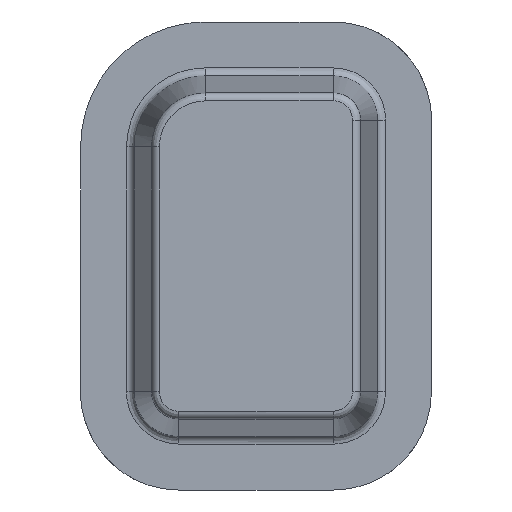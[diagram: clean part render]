
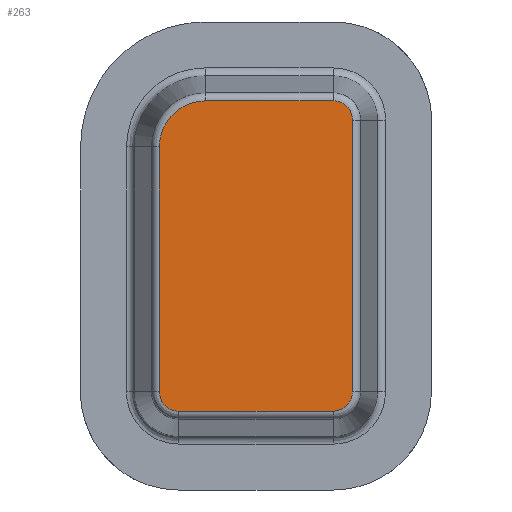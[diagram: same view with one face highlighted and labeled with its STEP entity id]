
A CAD part, front view. The second image highlights one B-rep face of the part: STEP entity #263.
In plain terms, the highlighted planar face has unit normal (0, -1, 0).
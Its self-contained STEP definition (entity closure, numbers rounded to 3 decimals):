
#144=CARTESIAN_POINT('Axis2P3D Location',(40.08,0.,59.92)) ;
#149=CARTESIAN_POINT('Line Origine',(2.749,0.,56.)) ;
#153=CARTESIAN_POINT('Vertex',(2.749,0.,102.)) ;
#155=CARTESIAN_POINT('Vertex',(2.749,0.,10.)) ;
#159=CARTESIAN_POINT('Control Point',(2.749,0.,10.)) ;
#160=CARTESIAN_POINT('Control Point',(2.749,0.,9.039)) ;
#161=CARTESIAN_POINT('Control Point',(2.908,0.,8.077)) ;
#162=CARTESIAN_POINT('Control Point',(3.227,0.,7.153)) ;
#163=CARTESIAN_POINT('Control Point',(4.157,0.,5.444)) ;
#164=CARTESIAN_POINT('Control Point',(5.587,0.,4.125)) ;
#165=CARTESIAN_POINT('Control Point',(6.407,0.,3.591)) ;
#166=CARTESIAN_POINT('Control Point',(7.615,0.,3.065)) ;
#167=CARTESIAN_POINT('Control Point',(8.897,0.,2.821)) ;
#168=CARTESIAN_POINT('Control Point',(9.235,0.,2.777)) ;
#169=CARTESIAN_POINT('Control Point',(9.593,0.,2.752)) ;
#170=CARTESIAN_POINT('Control Point',(9.95,0.,2.749)) ;
#171=CARTESIAN_POINT('Control Point',(9.967,0.,2.749)) ;
#172=CARTESIAN_POINT('Control Point',(9.983,0.,2.749)) ;
#173=CARTESIAN_POINT('Control Point',(10.,0.,2.749)) ;
#174=CARTESIAN_POINT('Vertex',(10.,0.,2.749)) ;
#177=CARTESIAN_POINT('Line Origine',(39.,0.,2.749)) ;
#181=CARTESIAN_POINT('Vertex',(68.,0.,2.749)) ;
#185=CARTESIAN_POINT('Control Point',(68.,0.,2.749)) ;
#186=CARTESIAN_POINT('Control Point',(68.961,0.,2.749)) ;
#187=CARTESIAN_POINT('Control Point',(69.923,0.,2.908)) ;
#188=CARTESIAN_POINT('Control Point',(70.847,0.,3.227)) ;
#189=CARTESIAN_POINT('Control Point',(72.556,0.,4.157)) ;
#190=CARTESIAN_POINT('Control Point',(73.875,0.,5.587)) ;
#191=CARTESIAN_POINT('Control Point',(74.409,0.,6.407)) ;
#192=CARTESIAN_POINT('Control Point',(74.935,0.,7.615)) ;
#193=CARTESIAN_POINT('Control Point',(75.179,0.,8.897)) ;
#194=CARTESIAN_POINT('Control Point',(75.223,0.,9.235)) ;
#195=CARTESIAN_POINT('Control Point',(75.248,0.,9.593)) ;
#196=CARTESIAN_POINT('Control Point',(75.251,0.,9.95)) ;
#197=CARTESIAN_POINT('Control Point',(75.251,0.,9.967)) ;
#198=CARTESIAN_POINT('Control Point',(75.251,0.,9.983)) ;
#199=CARTESIAN_POINT('Control Point',(75.251,0.,10.)) ;
#200=CARTESIAN_POINT('Vertex',(75.251,0.,10.)) ;
#203=CARTESIAN_POINT('Line Origine',(75.251,0.,61.)) ;
#207=CARTESIAN_POINT('Vertex',(75.251,0.,112.)) ;
#211=CARTESIAN_POINT('Control Point',(75.251,0.,112.)) ;
#212=CARTESIAN_POINT('Control Point',(75.251,0.,112.961)) ;
#213=CARTESIAN_POINT('Control Point',(75.092,0.,113.923)) ;
#214=CARTESIAN_POINT('Control Point',(74.773,0.,114.847)) ;
#215=CARTESIAN_POINT('Control Point',(73.843,0.,116.556)) ;
#216=CARTESIAN_POINT('Control Point',(72.413,0.,117.875)) ;
#217=CARTESIAN_POINT('Control Point',(71.593,0.,118.409)) ;
#218=CARTESIAN_POINT('Control Point',(70.385,0.,118.935)) ;
#219=CARTESIAN_POINT('Control Point',(69.103,0.,119.179)) ;
#220=CARTESIAN_POINT('Control Point',(68.765,0.,119.223)) ;
#221=CARTESIAN_POINT('Control Point',(68.407,0.,119.248)) ;
#222=CARTESIAN_POINT('Control Point',(68.05,0.,119.251)) ;
#223=CARTESIAN_POINT('Control Point',(68.033,0.,119.251)) ;
#224=CARTESIAN_POINT('Control Point',(68.017,0.,119.251)) ;
#225=CARTESIAN_POINT('Control Point',(68.,0.,119.251)) ;
#226=CARTESIAN_POINT('Vertex',(68.,0.,119.251)) ;
#229=CARTESIAN_POINT('Line Origine',(44.,0.,119.251)) ;
#233=CARTESIAN_POINT('Vertex',(20.,0.,119.251)) ;
#237=CARTESIAN_POINT('Control Point',(20.,0.,119.251)) ;
#238=CARTESIAN_POINT('Control Point',(18.077,0.,119.251)) ;
#239=CARTESIAN_POINT('Control Point',(16.154,0.,118.983)) ;
#240=CARTESIAN_POINT('Control Point',(14.282,0.,118.447)) ;
#241=CARTESIAN_POINT('Control Point',(10.736,0.,116.869)) ;
#242=CARTESIAN_POINT('Control Point',(7.758,0.,114.383)) ;
#243=CARTESIAN_POINT('Control Point',(6.452,0.,112.939)) ;
#244=CARTESIAN_POINT('Control Point',(4.494,0.,110.046)) ;
#245=CARTESIAN_POINT('Control Point',(3.314,0.,106.769)) ;
#246=CARTESIAN_POINT('Control Point',(2.954,0.,105.26)) ;
#247=CARTESIAN_POINT('Control Point',(2.762,0.,103.686)) ;
#248=CARTESIAN_POINT('Control Point',(2.749,0.,102.11)) ;
#249=CARTESIAN_POINT('Control Point',(2.749,0.,102.073)) ;
#250=CARTESIAN_POINT('Control Point',(2.749,0.,102.037)) ;
#251=CARTESIAN_POINT('Control Point',(2.749,0.,102.)) ;
#145=DIRECTION('Axis2P3D Direction',(0.,-1.,0.)) ;
#146=DIRECTION('Axis2P3D XDirection',(0.063,0.,0.998)) ;
#150=DIRECTION('Vector Direction',(0.,0.,1.)) ;
#178=DIRECTION('Vector Direction',(1.,0.,0.)) ;
#204=DIRECTION('Vector Direction',(0.,0.,1.)) ;
#230=DIRECTION('Vector Direction',(-1.,0.,0.)) ;
#147=AXIS2_PLACEMENT_3D('Plane Axis2P3D',#144,#145,#146) ;
#254=ORIENTED_EDGE('',*,*,#157,.T.) ;
#255=ORIENTED_EDGE('',*,*,#176,.T.) ;
#256=ORIENTED_EDGE('',*,*,#183,.T.) ;
#257=ORIENTED_EDGE('',*,*,#202,.T.) ;
#258=ORIENTED_EDGE('',*,*,#209,.T.) ;
#259=ORIENTED_EDGE('',*,*,#228,.T.) ;
#260=ORIENTED_EDGE('',*,*,#235,.T.) ;
#261=ORIENTED_EDGE('',*,*,#252,.T.) ;
#151=VECTOR('Line Direction',#150,1.) ;
#179=VECTOR('Line Direction',#178,1.) ;
#205=VECTOR('Line Direction',#204,1.) ;
#231=VECTOR('Line Direction',#230,1.) ;
#263=ADVANCED_FACE('base',(#262),#148,.T.) ;
#158=B_SPLINE_CURVE_WITH_KNOTS('',5,(#159,#160,#161,#162,#163,#164,#165,#166,#167,#168,#169,#170,#171,#172,#173),.UNSPECIFIED.,.F.,.U.,(6,3,3,3,6),(30.194,40.573,50.956,54.635,54.814),.UNSPECIFIED.) ;
#184=B_SPLINE_CURVE_WITH_KNOTS('',5,(#185,#186,#187,#188,#189,#190,#191,#192,#193,#194,#195,#196,#197,#198,#199),.UNSPECIFIED.,.F.,.U.,(6,3,3,3,6),(30.194,40.573,50.956,54.635,54.814),.UNSPECIFIED.) ;
#210=B_SPLINE_CURVE_WITH_KNOTS('',5,(#211,#212,#213,#214,#215,#216,#217,#218,#219,#220,#221,#222,#223,#224,#225),.UNSPECIFIED.,.F.,.U.,(6,3,3,3,6),(30.194,40.573,50.956,54.635,54.814),.UNSPECIFIED.) ;
#236=B_SPLINE_CURVE_WITH_KNOTS('',5,(#237,#238,#239,#240,#241,#242,#243,#244,#245,#246,#247,#248,#249,#250,#251),.UNSPECIFIED.,.F.,.U.,(6,3,3,3,6),(42.247,58.583,74.939,88.015,88.326),.UNSPECIFIED.) ;
#157=EDGE_CURVE('',#154,#156,#152,.F.) ;
#176=EDGE_CURVE('',#156,#175,#158,.T.) ;
#183=EDGE_CURVE('',#175,#182,#180,.T.) ;
#202=EDGE_CURVE('',#182,#201,#184,.T.) ;
#209=EDGE_CURVE('',#201,#208,#206,.T.) ;
#228=EDGE_CURVE('',#208,#227,#210,.T.) ;
#235=EDGE_CURVE('',#227,#234,#232,.T.) ;
#252=EDGE_CURVE('',#234,#154,#236,.T.) ;
#253=EDGE_LOOP('',(#254,#255,#256,#257,#258,#259,#260,#261)) ;
#262=FACE_OUTER_BOUND('',#253,.T.) ;
#152=LINE('Line',#149,#151) ;
#180=LINE('Line',#177,#179) ;
#206=LINE('Line',#203,#205) ;
#232=LINE('Line',#229,#231) ;
#148=PLANE('',#147) ;
#154=VERTEX_POINT('',#153) ;
#156=VERTEX_POINT('',#155) ;
#175=VERTEX_POINT('',#174) ;
#182=VERTEX_POINT('',#181) ;
#201=VERTEX_POINT('',#200) ;
#208=VERTEX_POINT('',#207) ;
#227=VERTEX_POINT('',#226) ;
#234=VERTEX_POINT('',#233) ;
